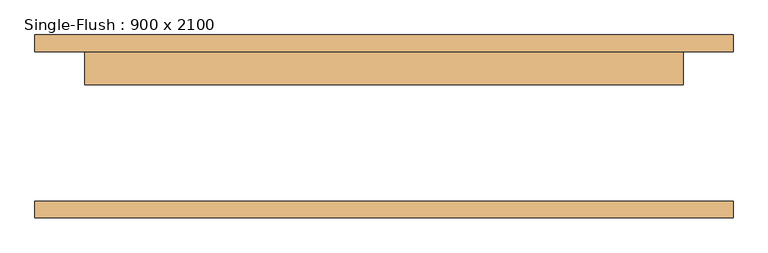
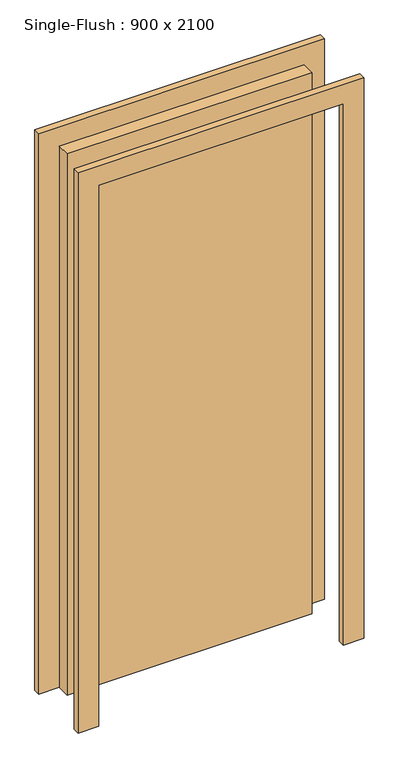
"""IFC4 building model written with IfcOpenShell, lengths in millimetres: door geometry, Single-Flush : 900 x 2100."""

from ifc_helpers import new_model, si_unit, frame, origin, origin_with_axes, place, context, project, spatial, polyline, outline, extrude, source, transform, mapped, element, save


def single_flush_900_x_2100_0ca8825f(model_context):
    return source(origin(), model_context, "Body", "SweptSolid", [
        extrude(outline(polyline([(2209.8, -533.4), (0.0, -533.4), (0.0, -457.2), (2133.6, -457.2), (2133.6, 457.2), (0.0, 457.2), (0.0, 533.4), (2209.8, 533.4), (2209.8, -533.4)])), frame((0.0, 114.3, 0.0), z_axis=(0.0, 1.0, 0.0), x_axis=(0.0, 0.0, 1.0)), (0.0, 0.0, 1.0), 25.4),
        extrude(outline(polyline([(2209.8, 533.4), (2209.8, -533.4), (0.0, -533.4), (0.0, -457.2), (2133.6, -457.2), (2133.6, 457.2), (0.0, 457.2), (0.0, 533.4), (2209.8, 533.4)])), frame((0.0, -139.7, 0.0), z_axis=(0.0, 1.0, 0.0), x_axis=(0.0, 0.0, 1.0)), (0.0, 0.0, 1.0), 25.4),
        extrude(outline(polyline([(457.2, 63.5), (-457.2, 63.5), (-457.2, 114.3), (457.2, 114.3), (457.2, 63.5)])), origin_with_axes(), (0.0, 0.0, 1.0), 2133.6),
    ])


if __name__ == "__main__":
    model = new_model("IFC4")
    model_context = context("Model", 3, world=origin())
    ifc_project = project(units=[si_unit("LENGTHUNIT", "METRE", prefix="MILLI")], contexts=[model_context])
    site = spatial("IfcSite", under=ifc_project)
    building = spatial("IfcBuilding", under=site)
    placement = place(None, origin())
    single_flush_900_x_2100_shape = single_flush_900_x_2100_0ca8825f(model_context)
    element("IfcDoor", 1, ObjectType="Single-Flush : 900 x 2100", at=placement, inside=building, context=model_context, shape_type="MappedRepresentation", body=[
        mapped(single_flush_900_x_2100_shape, transform((0.0, 0.0, 0.0), x_axis=(1.0, 0.0, 0.0), y_axis=(0.0, 1.0, 0.0), z_axis=(0.0, 0.0, 1.0))),
    ])
    save(model, "model.ifc")
